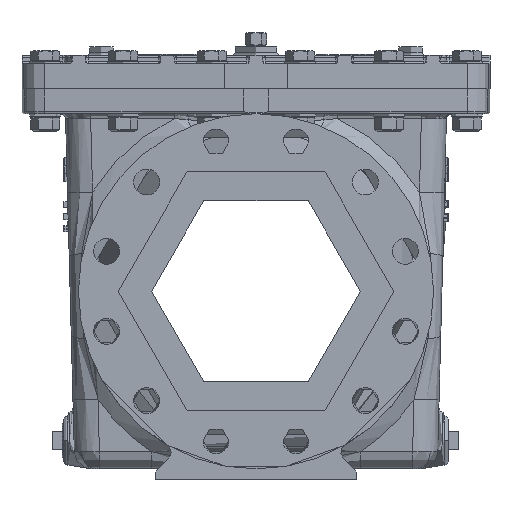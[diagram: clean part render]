
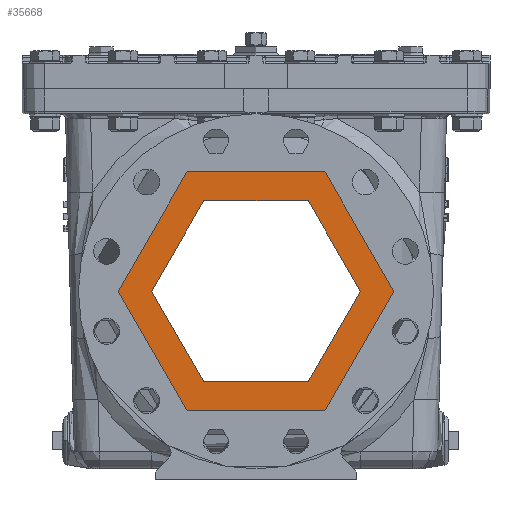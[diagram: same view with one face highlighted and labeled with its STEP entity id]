
A CAD part, left-side view. The second image highlights one B-rep face of the part: STEP entity #35668.
In plain terms, the highlighted planar face has unit normal (-1, 0, 0).
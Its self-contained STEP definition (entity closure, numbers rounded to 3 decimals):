
#1702=FACE_BOUND('',#6594,.T.);
#2137=PLANE('',#38866);
#4266=FACE_OUTER_BOUND('',#6593,.T.);
#6593=EDGE_LOOP('',(#28588,#28589));
#6594=EDGE_LOOP('',(#28590,#28591));
#8733=CIRCLE('',#38863,165.);
#8734=CIRCLE('',#38865,165.);
#8735=CIRCLE('',#38867,125.);
#8736=CIRCLE('',#38868,125.);
#16530=VERTEX_POINT('',#84031);
#16531=VERTEX_POINT('',#84033);
#16532=VERTEX_POINT('',#84039);
#16533=VERTEX_POINT('',#84040);
#20801=EDGE_CURVE('',#16531,#16530,#8733,.T.);
#20803=EDGE_CURVE('',#16530,#16531,#8734,.T.);
#20804=EDGE_CURVE('',#16532,#16533,#8735,.T.);
#20805=EDGE_CURVE('',#16533,#16532,#8736,.T.);
#28588=ORIENTED_EDGE('',*,*,#20803,.T.);
#28589=ORIENTED_EDGE('',*,*,#20801,.T.);
#28590=ORIENTED_EDGE('',*,*,#20804,.T.);
#28591=ORIENTED_EDGE('',*,*,#20805,.T.);
#35668=ADVANCED_FACE('',(#4266,#1702),#2137,.F.);
#38863=AXIS2_PLACEMENT_3D('',#84034,#44953,#44954);
#38865=AXIS2_PLACEMENT_3D('',#84037,#44958,#44959);
#38866=AXIS2_PLACEMENT_3D('',#84038,#44960,#44961);
#38867=AXIS2_PLACEMENT_3D('',#84041,#44962,#44963);
#38868=AXIS2_PLACEMENT_3D('',#84042,#44964,#44965);
#44953=DIRECTION('center_axis',(-1.,0.,0.));
#44954=DIRECTION('ref_axis',(0.,0.,-1.));
#44958=DIRECTION('center_axis',(-1.,0.,0.));
#44959=DIRECTION('ref_axis',(0.,0.,1.));
#44960=DIRECTION('center_axis',(1.,0.,0.));
#44961=DIRECTION('ref_axis',(0.,0.,-1.));
#44962=DIRECTION('center_axis',(1.,0.,0.));
#44963=DIRECTION('ref_axis',(0.,0.,1.));
#44964=DIRECTION('center_axis',(1.,0.,0.));
#44965=DIRECTION('ref_axis',(0.,0.,-1.));
#84031=CARTESIAN_POINT('',(-289.999,0.,165.));
#84033=CARTESIAN_POINT('',(-289.999,0.,-165.));
#84034=CARTESIAN_POINT('Origin',(-289.999,0.,0.));
#84037=CARTESIAN_POINT('Origin',(-289.999,0.,0.));
#84038=CARTESIAN_POINT('Origin',(-289.999,140.,0.));
#84039=CARTESIAN_POINT('',(-289.999,0.,125.));
#84040=CARTESIAN_POINT('',(-289.999,0.,-125.));
#84041=CARTESIAN_POINT('Origin',(-289.999,0.,0.));
#84042=CARTESIAN_POINT('Origin',(-289.999,0.,0.));
